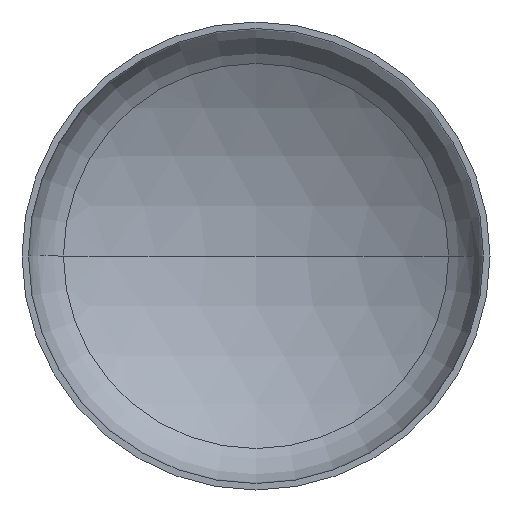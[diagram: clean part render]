
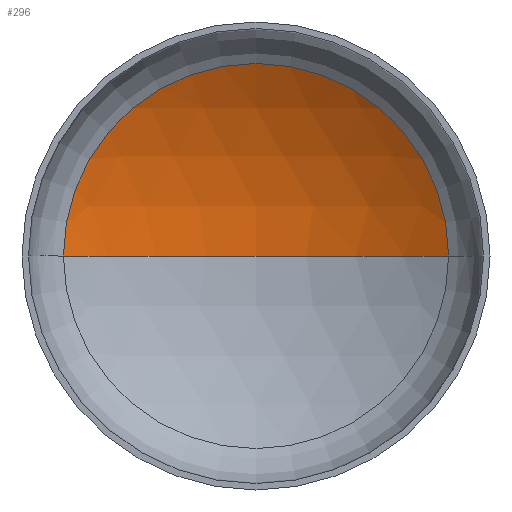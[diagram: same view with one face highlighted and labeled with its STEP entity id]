
A CAD part, front view. The second image highlights one B-rep face of the part: STEP entity #296.
In plain terms, the highlighted spherical face has radius 5200 mm.
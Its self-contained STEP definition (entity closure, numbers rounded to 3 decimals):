
#2 = DIRECTION ( 'NONE',  ( 1., 0., 0. ) ) ;
#9 = DIRECTION ( 'NONE',  ( 0., 0., 1. ) ) ;
#20 = CARTESIAN_POINT ( 'NONE',  ( 0., -3501.999, 0. ) ) ;
#27 = VERTEX_POINT ( 'NONE', #251 ) ;
#34 = AXIS2_PLACEMENT_3D ( 'NONE', #78, #94, #145 ) ;
#35 = CIRCLE ( 'NONE', #90, 5200. ) ;
#59 = VERTEX_POINT ( 'NONE', #252 ) ;
#78 = CARTESIAN_POINT ( 'NONE',  ( 0., -3501.999, 0. ) ) ;
#84 = AXIS2_PLACEMENT_3D ( 'NONE', #20, #9, #2 ) ;
#90 = AXIS2_PLACEMENT_3D ( 'NONE', #188, #190, #193 ) ;
#94 = DIRECTION ( 'NONE',  ( 0., 0., -1. ) ) ;
#98 = AXIS2_PLACEMENT_3D ( 'NONE', #228, #231, #215 ) ;
#99 = ORIENTED_EDGE ( 'NONE', *, *, #165, .T. ) ;
#103 = ORIENTED_EDGE ( 'NONE', *, *, #169, .T. ) ;
#109 = EDGE_LOOP ( 'NONE', ( #214, #103, #99 ) ) ;
#125 = VERTEX_POINT ( 'NONE', #339 ) ;
#145 = DIRECTION ( 'NONE',  ( -1., 0., 0. ) ) ;
#165 = EDGE_CURVE ( 'NONE', #59, #125, #192, .T. ) ;
#169 = EDGE_CURVE ( 'NONE', #27, #59, #35, .T. ) ;
#173 = EDGE_CURVE ( 'NONE', #27, #125, #186, .T. ) ;
#186 = CIRCLE ( 'NONE', #84, 5200. ) ;
#188 = CARTESIAN_POINT ( 'NONE',  ( 0., -3501.999, 0. ) ) ;
#190 = DIRECTION ( 'NONE',  ( 0., 0., -1. ) ) ;
#192 = CIRCLE ( 'NONE', #98, 2674.286 ) ;
#193 = DIRECTION ( 'NONE',  ( -1., 0., 0. ) ) ;
#214 = ORIENTED_EDGE ( 'NONE', *, *, #173, .F. ) ;
#215 = DIRECTION ( 'NONE',  ( 1., 0., 0. ) ) ;
#228 = CARTESIAN_POINT ( 'NONE',  ( 0., 957.619, 0. ) ) ;
#229 = FACE_OUTER_BOUND ( 'NONE', #109, .T. ) ;
#231 = DIRECTION ( 'NONE',  ( 0., -1., 0. ) ) ;
#251 = CARTESIAN_POINT ( 'NONE',  ( 0., 1698.001, 0. ) ) ;
#252 = CARTESIAN_POINT ( 'NONE',  ( 2674.286, 957.619, 0. ) ) ;
#296 = ADVANCED_FACE ( 'NONE', ( #229 ), #401, .F. ) ;
#339 = CARTESIAN_POINT ( 'NONE',  ( -2674.286, 957.619, 0. ) ) ;
#401 = SPHERICAL_SURFACE ( 'NONE', #34, 5200. ) ;
